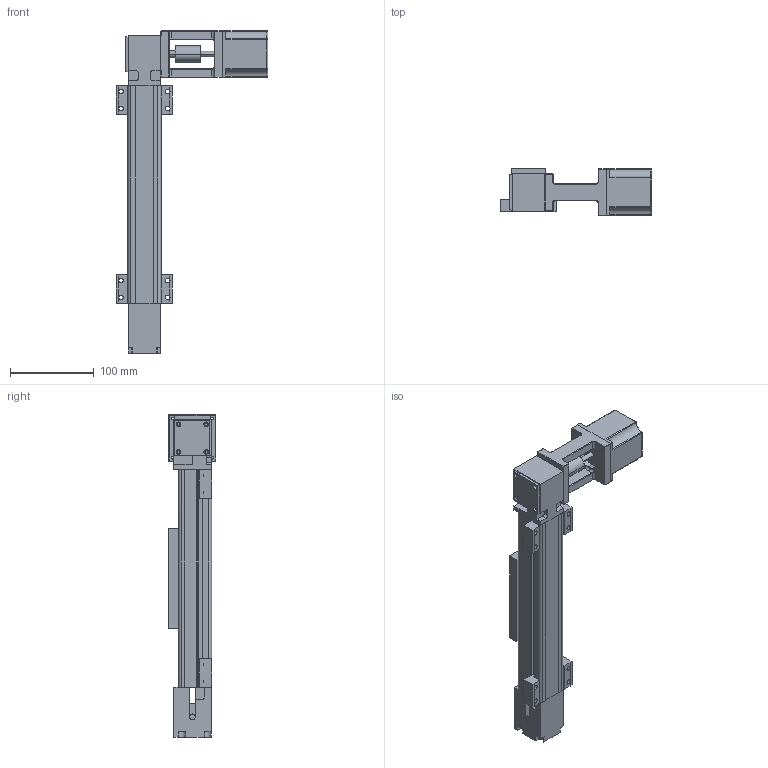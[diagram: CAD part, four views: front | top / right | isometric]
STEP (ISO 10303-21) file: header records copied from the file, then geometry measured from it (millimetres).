
FILE_DESCRIPTION (( 'STEP AP203' ), '1' );
FILE_NAME ('MDL40B-设计样例.STEP', '2013-11-02T02:32:24', ( '微软用户' ), ( '微软中国' ), 'SwSTEP 2.0', 'SolidWorks 2010', '' );
FILE_SCHEMA (( 'CONFIG_CONTROL_DESIGN' ));
Length unit declared in the file: millimetre
Products named in the file (1): MDL40B-扢數欴瞰
Bounding box: 181 x 57.05 x 386.05 mm (x, y, z)
Volume: 818911 mm3; surface area: 182247.4 mm2
Topology: 3 solids, 5 shells, 624 faces, 1621 edges, 1003 vertices
Faces by surface type: plane 354, cylinder 224, cone 24, bspline 10, sphere 8, torus 4
Entity records: 20462 total; most frequent: CARTESIAN_POINT 4937, DIRECTION 3251, ORIENTED_EDGE 3190, EDGE_CURVE 1595, AXIS2_PLACEMENT_3D 1093, LINE 1065, VECTOR 1065, VERTEX_POINT 1003
